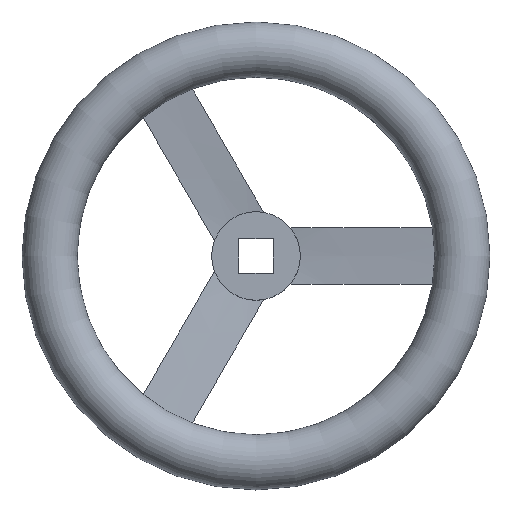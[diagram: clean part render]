
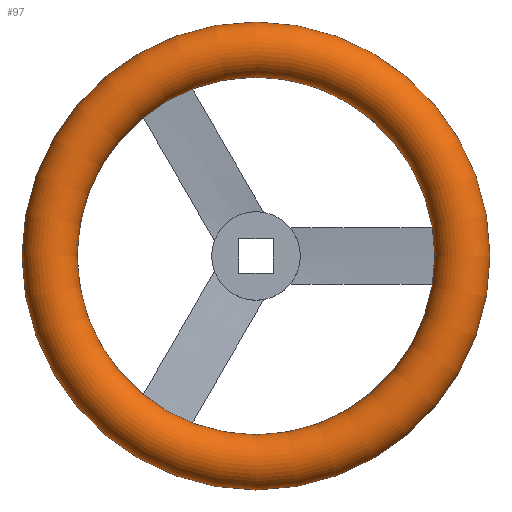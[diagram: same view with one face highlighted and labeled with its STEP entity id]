
A CAD part, top view. The second image highlights one B-rep face of the part: STEP entity #97.
In plain terms, the highlighted toroidal (fillet/blend) face has major radius 61.75 mm and minor radius 8.25 mm.
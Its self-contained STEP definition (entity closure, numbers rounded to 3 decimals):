
#97 = ADVANCED_FACE( '', ( #156, #157 ), #158, .T. );
#156 = FACE_OUTER_BOUND( '', #224, .T. );
#157 = FACE_OUTER_BOUND( '', #225, .T. );
#158 = TOROIDAL_SURFACE( '', #226, 61.75, 8.25 );
#224 = EDGE_LOOP( '', ( #415 ) );
#225 = EDGE_LOOP( '', ( #416 ) );
#226 = AXIS2_PLACEMENT_3D( '', #417, #418, #419 );
#415 = ORIENTED_EDGE( '', *, *, #496, .T. );
#416 = ORIENTED_EDGE( '', *, *, #495, .F. );
#417 = CARTESIAN_POINT( '', ( 0., 0., 18.75 ) );
#418 = DIRECTION( '', ( 0., 0., 1. ) );
#419 = DIRECTION( '', ( 1., 0., 0. ) );
#495 = EDGE_CURVE( '', #591, #591, #592, .T. );
#496 = EDGE_CURVE( '', #593, #593, #594, .T. );
#591 = VERTEX_POINT( '', #824 );
#592 = CIRCLE( '', #825, 53.5 );
#593 = VERTEX_POINT( '', #826 );
#594 = CIRCLE( '', #827, 70. );
#824 = CARTESIAN_POINT( '', ( 53.5, 0., 18.75 ) );
#825 = AXIS2_PLACEMENT_3D( '', #915, #916, #917 );
#826 = CARTESIAN_POINT( '', ( 70., 0., 18.75 ) );
#827 = AXIS2_PLACEMENT_3D( '', #918, #919, #920 );
#915 = CARTESIAN_POINT( '', ( 0., 0., 18.75 ) );
#916 = DIRECTION( '', ( 0., 0., 1. ) );
#917 = DIRECTION( '', ( 1., 0., 0. ) );
#918 = CARTESIAN_POINT( '', ( 0., 0., 18.75 ) );
#919 = DIRECTION( '', ( 0., 0., 1. ) );
#920 = DIRECTION( '', ( 1., 0., 0. ) );
